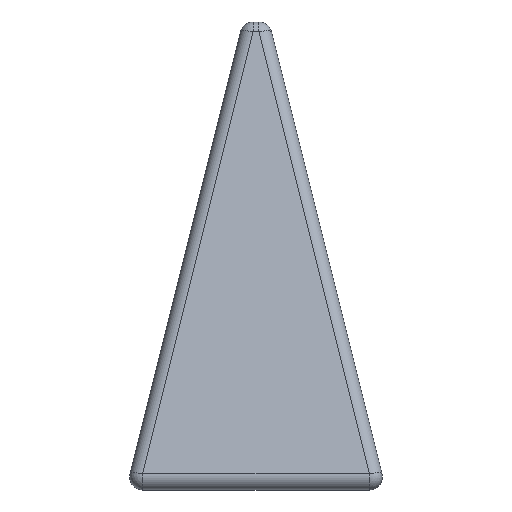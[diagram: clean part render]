
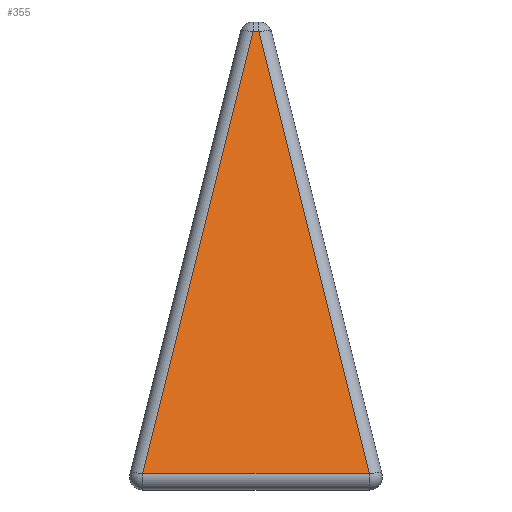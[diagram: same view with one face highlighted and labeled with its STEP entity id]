
A CAD part, left-side view. The second image highlights one B-rep face of the part: STEP entity #355.
In plain terms, the highlighted planar face has unit normal (-0.97, 0, 0.242).
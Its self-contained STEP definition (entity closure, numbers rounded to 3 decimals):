
#17=PLANE('',#419);
#21=LINE('',#600,#45);
#24=LINE('',#611,#48);
#27=LINE('',#616,#51);
#32=LINE('',#623,#56);
#45=VECTOR('',#483,10.);
#48=VECTOR('',#496,10.);
#51=VECTOR('',#503,10.);
#56=VECTOR('',#512,10.);
#103=FACE_OUTER_BOUND('',#129,.T.);
#129=EDGE_LOOP('',(#309,#310,#311,#312));
#166=VERTEX_POINT('',#572);
#174=VERTEX_POINT('',#589);
#177=VERTEX_POINT('',#596);
#178=VERTEX_POINT('',#603);
#202=EDGE_CURVE('',#166,#177,#21,.T.);
#208=EDGE_CURVE('',#178,#174,#24,.T.);
#211=EDGE_CURVE('',#177,#178,#27,.T.);
#216=EDGE_CURVE('',#174,#166,#32,.T.);
#309=ORIENTED_EDGE('',*,*,#208,.F.);
#310=ORIENTED_EDGE('',*,*,#211,.F.);
#311=ORIENTED_EDGE('',*,*,#202,.F.);
#312=ORIENTED_EDGE('',*,*,#216,.F.);
#355=ADVANCED_FACE('',(#103),#17,.F.);
#419=AXIS2_PLACEMENT_3D('',#644,#541,#542);
#483=DIRECTION('',(0.,-1.,0.));
#496=DIRECTION('',(0.,1.,0.));
#503=DIRECTION('',(-0.236,-0.236,-0.943));
#512=DIRECTION('',(0.236,-0.236,0.943));
#541=DIRECTION('center_axis',(0.97,0.,-0.243));
#542=DIRECTION('ref_axis',(-0.243,0.,-0.97));
#572=CARTESIAN_POINT('',(-17.84,3.288,528.638));
#589=CARTESIAN_POINT('',(-145.34,130.788,18.638));
#596=CARTESIAN_POINT('',(-17.84,-3.288,528.638));
#600=CARTESIAN_POINT('',(-17.84,-75.,528.638));
#603=CARTESIAN_POINT('',(-145.34,-130.788,18.638));
#611=CARTESIAN_POINT('',(-145.34,-75.,18.638));
#616=CARTESIAN_POINT('',(-142.475,-127.923,30.1));
#623=CARTESIAN_POINT('',(-142.475,127.923,30.1));
#644=CARTESIAN_POINT('Origin',(-150.,-150.,0.));
